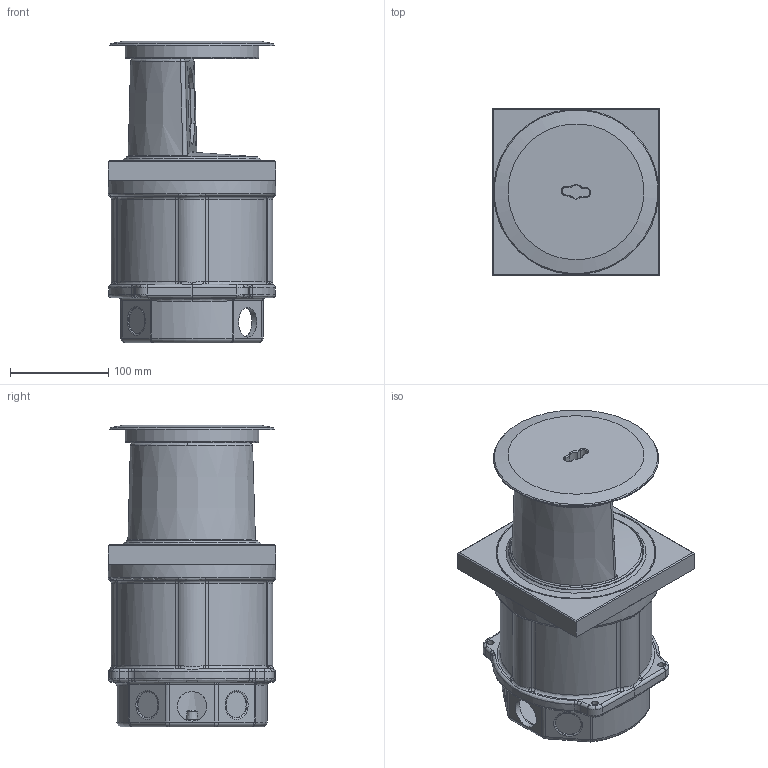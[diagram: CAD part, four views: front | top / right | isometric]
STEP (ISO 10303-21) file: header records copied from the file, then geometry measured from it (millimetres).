
FILE_DESCRIPTION(/* description */ (''),/* implementation_level */ '2;1');
FILE_NAME(/* name */ 'D:\LW_K\INVENTOR\Dummy Zeichnungen Bodendosen\Dummy Zeichnungen MASSO\MASSO_4010_Dummy.stp',/* time_stamp */ '2021-05-20T09:56:33+02:00',/* author */ ('mayrhofer'),/* organization */ (''),/* preprocessor_version */ 'ST-DEVELOPER v18.1',/* originating_system */ 'Autodesk Inventor 2021',/* authorisation */ '');
FILE_SCHEMA (('AUTOMOTIVE_DESIGN { 1 0 10303 214 3 1 1 }'));
Length unit declared in the file: millimetre
Products named in the file (6): MASSO_4010_Dummy; MASSO_4000_GEHÄUSE_3DINV; Rahmen MASSO_3DINV; Anschlagring_MASSO_AUSSEN_3DINV; Einsatzträger_CEE_3DINV; Deckel_MASSO_3DINV
Assembly tree (5 placements, depth 2):
  MASSO_4010_Dummy
    MASSO_4000_GEHÄUSE_3DINV
    Rahmen MASSO_3DINV
    Anschlagring_MASSO_AUSSEN_3DINV
    Einsatzträger_CEE_3DINV
    Deckel_MASSO_3DINV
Bounding box: 170 x 170 x 306.5 mm (x, y, z)
Volume: 1537438.7 mm3; surface area: 415363.2 mm2
Topology: 5 solids, 5 shells, 619 faces, 1567 edges, 975 vertices
Faces by surface type: plane 234, bspline 181, cylinder 119, torus 37, cone 34, sphere 14
Full cylindrical faces by diameter (mm): 4.5 x4, 6.8 x4, 30 x3, 136 x2, 136.4 x1, 137.7 x1, 161.4 x1, 162 x1, 168 x1, 170 x1
Entity records: 28216 total; most frequent: CARTESIAN_POINT 13976, ORIENTED_EDGE 3106, DIRECTION 2631, EDGE_CURVE 1553, VERTEX_POINT 975, AXIS2_PLACEMENT_3D 963, LINE 705, VECTOR 705
